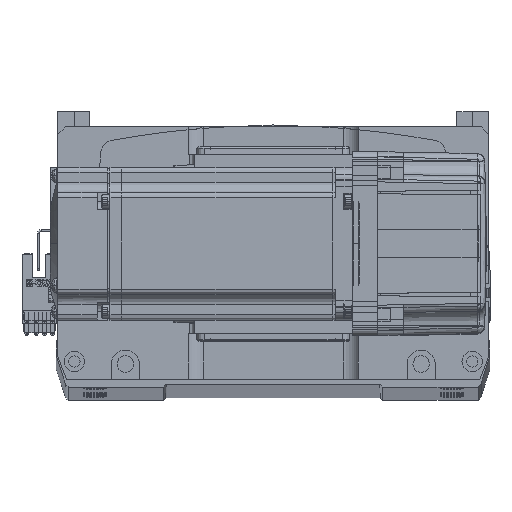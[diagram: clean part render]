
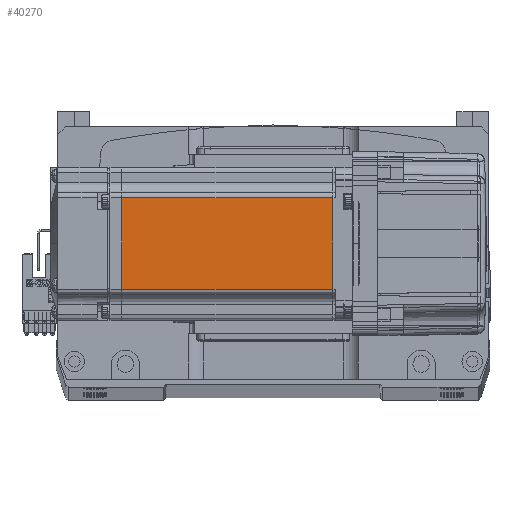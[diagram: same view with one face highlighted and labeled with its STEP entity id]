
A CAD part, top view. The second image highlights one B-rep face of the part: STEP entity #40270.
In plain terms, the highlighted planar face has unit normal (0, 0, 1).
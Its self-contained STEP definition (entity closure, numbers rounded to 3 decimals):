
#575 = VECTOR ( 'NONE', #48076, 1000. ) ;
#3433 = DIRECTION ( 'NONE',  ( -1., 0., 0. ) ) ;
#4164 = CARTESIAN_POINT ( 'NONE',  ( -6.5, -25., 30. ) ) ;
#4414 = EDGE_CURVE ( 'NONE', #37329, #28963, #66440, .T. ) ;
#4763 = CARTESIAN_POINT ( 'NONE',  ( -7.75, 18., 30. ) ) ;
#10595 = EDGE_CURVE ( 'NONE', #51639, #28963, #47724, .T. ) ;
#13154 = ORIENTED_EDGE ( 'NONE', *, *, #4414, .T. ) ;
#15542 = CARTESIAN_POINT ( 'NONE',  ( -90.45, 0., 30. ) ) ;
#18660 = VECTOR ( 'NONE', #3433, 1000. ) ;
#21598 = CARTESIAN_POINT ( 'NONE',  ( -6.5, -18., 30. ) ) ;
#21836 = CARTESIAN_POINT ( 'NONE',  ( -7.75, -18., 30. ) ) ;
#22370 = VERTEX_POINT ( 'NONE', #4763 ) ;
#22766 = EDGE_LOOP ( 'NONE', ( #48812, #63524, #13154, #44919 ) ) ;
#26135 = DIRECTION ( 'NONE',  ( 0., 0., 1. ) ) ;
#28154 = CARTESIAN_POINT ( 'NONE',  ( -6.5, 18., 30. ) ) ;
#28963 = VERTEX_POINT ( 'NONE', #41321 ) ;
#32470 = EDGE_CURVE ( 'NONE', #22370, #51639, #58775, .T. ) ;
#35350 = AXIS2_PLACEMENT_3D ( 'NONE', #4164, #26135, #58695 ) ;
#37329 = VERTEX_POINT ( 'NONE', #58870 ) ;
#37463 = EDGE_CURVE ( 'NONE', #22370, #37329, #57224, .T. ) ;
#39661 = DIRECTION ( 'NONE',  ( 0., -1., 0. ) ) ;
#39905 = CARTESIAN_POINT ( 'NONE',  ( -7.75, 0., 30. ) ) ;
#40270 = ADVANCED_FACE ( 'NONE', ( #67207 ), #64643, .T. ) ;
#41321 = CARTESIAN_POINT ( 'NONE',  ( -90.45, -18., 30. ) ) ;
#44919 = ORIENTED_EDGE ( 'NONE', *, *, #10595, .F. ) ;
#47724 = LINE ( 'NONE', #21598, #18660 ) ;
#48076 = DIRECTION ( 'NONE',  ( 0., -1., 0. ) ) ;
#48812 = ORIENTED_EDGE ( 'NONE', *, *, #32470, .F. ) ;
#51639 = VERTEX_POINT ( 'NONE', #21836 ) ;
#52743 = VECTOR ( 'NONE', #39661, 1000. ) ;
#57224 = LINE ( 'NONE', #28154, #66621 ) ;
#58695 = DIRECTION ( 'NONE',  ( 1., 0., 0. ) ) ;
#58775 = LINE ( 'NONE', #39905, #52743 ) ;
#58870 = CARTESIAN_POINT ( 'NONE',  ( -90.45, 18., 30. ) ) ;
#63524 = ORIENTED_EDGE ( 'NONE', *, *, #37463, .T. ) ;
#64643 = PLANE ( 'NONE',  #35350 ) ;
#66440 = LINE ( 'NONE', #15542, #575 ) ;
#66442 = DIRECTION ( 'NONE',  ( -1., 0., 0. ) ) ;
#66621 = VECTOR ( 'NONE', #66442, 1000. ) ;
#67207 = FACE_OUTER_BOUND ( 'NONE', #22766, .T. ) ;
